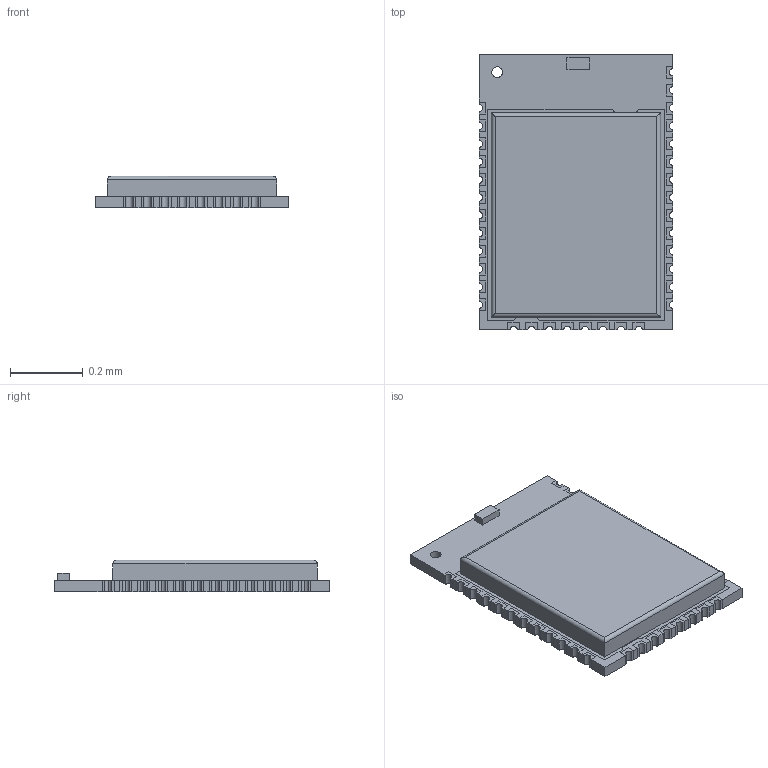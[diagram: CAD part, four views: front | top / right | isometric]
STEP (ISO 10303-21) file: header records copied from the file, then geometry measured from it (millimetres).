
FILE_DESCRIPTION (( 'STEP AP214' ), '1' );
FILE_NAME ('XB3-24Z8CM-J.STEP', '2022-04-29T13:46:36', ( '' ), ( '' ), 'SwSTEP 2.0', 'SolidWorks 2018', '' );
FILE_SCHEMA (( 'AUTOMOTIVE_DESIGN' ));
Length unit declared in the file: millimetre
Products named in the file (2): XB3-24Z8CM-J
Bounding box: 0.53 x 0.76 x 0.09 mm (x, y, z)
Volume: 0 mm3; surface area: 2.3 mm2
Topology: 41 solids, 41 shells, 698 faces, 1696 edges, 1084 vertices
Faces by surface type: plane 512, cylinder 186
Entity records: 25747 total; most frequent: CARTESIAN_POINT 3492, DIRECTION 3456, ORIENTED_EDGE 3392, EDGE_CURVE 1696, LINE 1328, VECTOR 1328, VERTEX_POINT 1084, AXIS2_PLACEMENT_3D 1064
